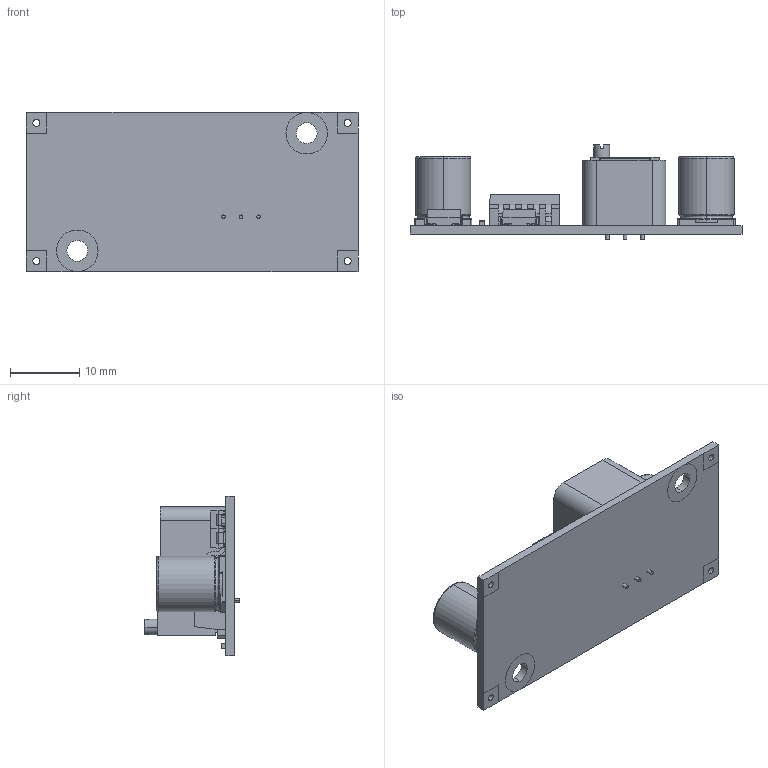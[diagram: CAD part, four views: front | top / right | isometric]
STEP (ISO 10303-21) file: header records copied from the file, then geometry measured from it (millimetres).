
FILE_DESCRIPTION (( 'STEP AP214' ), '1' );
FILE_NAME ('User Library-LM2596_DC-DC_CONVERTER.STEP', '2020-01-25T11:38:48', ( '' ), ( '' ), 'SwSTEP 2.0', 'SolidWorks 2019', '' );
FILE_SCHEMA (( 'AUTOMOTIVE_DESIGN' ));
Length unit declared in the file: millimetre
Products named in the file (20): User Library-DC-DC MODULE LM2596s_User Library-ALU-F_Fuss_1; User Library-DC-DC MODULE LM2596s_User Library-TO-263-5_TO-263-5_Leads_1; CAP_LM2596; R2_LM2596; POT_LM2596; CAP_CER_LM2596-1; User Library-DC-DC MODULE LM2596s_User Library-ALU-F_Beschriftung_1; User Library-DC-DC MODULE LM2596s_C0603; DIODE_LM2596; INDUCTOR_LM2596; CAP_CER_LM2596; User Library-LM2596_DC-DC_CONVERTER; User Library-DC-DC MODULE LM2596s_User Library-TO-263-5_TO-263-5_Body_1; User Library-DC-DC MODULE LM2596s_User Library-ALU-F_K_X_F6rper_1; CAP_LM2596-1; User Library-DC-DC MODULE LM2596s_User Library-ALU-F_Pins_1; User Library-DC-DC MODULE LM2596s_User Library-TO-263-5_TO-263-5_Marking_1; BASE_LM2596; TO-263-5_LM2596; User Library-DC-DC MODULE LM2596s_R0603
Assembly tree (25 placements, depth 3):
  User Library-LM2596_DC-DC_CONVERTER
    TO-263-5_LM2596
      User Library-DC-DC MODULE LM2596s_User Library-TO-263-5_TO-263-5_Body_1
      User Library-DC-DC MODULE LM2596s_User Library-TO-263-5_TO-263-5_Leads_1
      User Library-DC-DC MODULE LM2596s_User Library-TO-263-5_TO-263-5_Marking_1
    CAP_CER_LM2596
      User Library-DC-DC MODULE LM2596s_C0603
    CAP_LM2596
      User Library-DC-DC MODULE LM2596s_User Library-ALU-F_Pins_1
      User Library-DC-DC MODULE LM2596s_User Library-ALU-F_Fuss_1
      User Library-DC-DC MODULE LM2596s_User Library-ALU-F_K_X_F6rper_1
      User Library-DC-DC MODULE LM2596s_User Library-ALU-F_Beschriftung_1
    R2_LM2596
      User Library-DC-DC MODULE LM2596s_R0603
    CAP_LM2596-1
      User Library-DC-DC MODULE LM2596s_User Library-ALU-F_Pins_1
      User Library-DC-DC MODULE LM2596s_User Library-ALU-F_Fuss_1
      User Library-DC-DC MODULE LM2596s_User Library-ALU-F_K_X_F6rper_1
      User Library-DC-DC MODULE LM2596s_User Library-ALU-F_Beschriftung_1
    CAP_CER_LM2596-1
      User Library-DC-DC MODULE LM2596s_C0603
    BASE_LM2596
    INDUCTOR_LM2596
    POT_LM2596
    DIODE_LM2596  x2
Bounding box: 48 x 13.81 x 23 mm (x, y, z)
Volume: 4635.7 mm3; surface area: 5844.5 mm2
Topology: 26 solids, 26 shells, 1952 faces, 5078 edges, 3233 vertices
Faces by surface type: plane 975, bspline 646, cylinder 328, cone 3
Entity records: 60523 total; most frequent: CARTESIAN_POINT 25887, ORIENTED_EDGE 7650, DIRECTION 5302, EDGE_CURVE 3825, VERTEX_POINT 2486, VECTOR 2424, LINE 2424, EDGE_LOOP 1571
